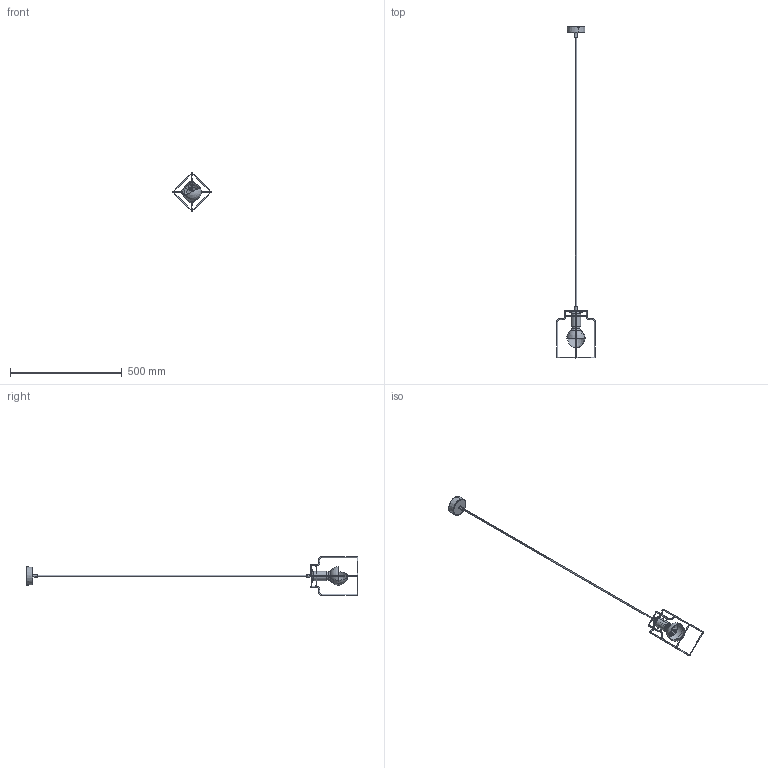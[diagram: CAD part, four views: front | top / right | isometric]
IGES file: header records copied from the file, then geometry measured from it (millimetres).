
Start section: SolidWorks IGES file using analytic representation for surfaces
Global section: file name: E:\_DESIGN\NOWOŒCI\Druciaki\Wybrane druciaki\Wzór komin\Wzór Komin_z³o¿enie lampy.IGS; native system: SolidWorks 2016; preprocessor: SolidWorks 2016; author: Asia; date: 170317.153024; units: millimetre
Bounding box: 172.04 x 1484.2 x 171.79 mm (x, y, z)
Surface area: 148574 mm2 (no closed solid volume)
Topology: 0 solids, 0 shells, 376 faces, 3946 edges, 3941 vertices
Faces by surface type: revolution 210, bspline 166
